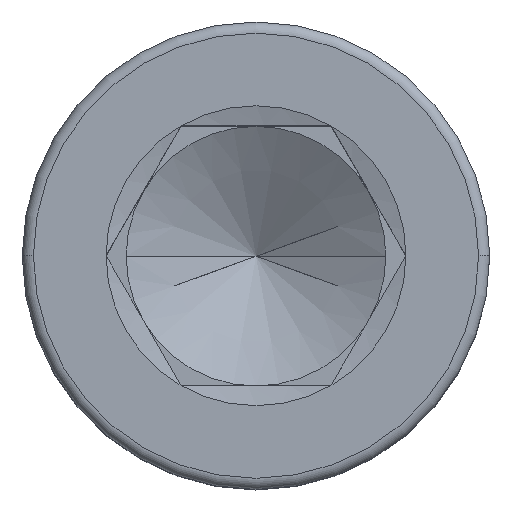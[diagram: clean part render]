
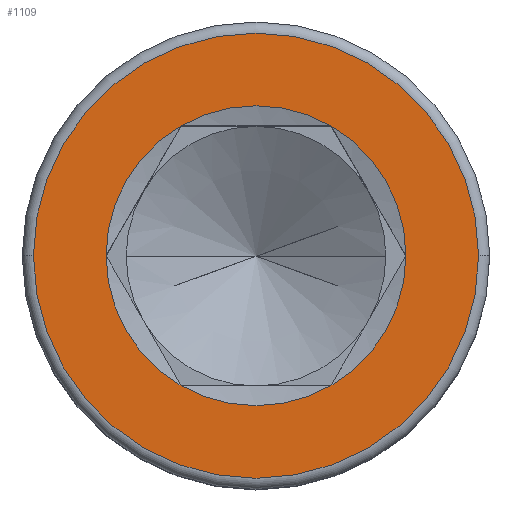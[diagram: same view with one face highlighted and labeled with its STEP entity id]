
A CAD part, top view. The second image highlights one B-rep face of the part: STEP entity #1109.
In plain terms, the highlighted planar face has unit normal (0, 0, 1).
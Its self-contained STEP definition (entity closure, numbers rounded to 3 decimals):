
#121 = CARTESIAN_POINT ( 'NONE',  ( 5.774, 0., 12. ) ) ;
#122 = CARTESIAN_POINT ( 'NONE',  ( 0., 0., 12. ) ) ;
#128 = VERTEX_POINT ( 'NONE', #981 ) ;
#139 = AXIS2_PLACEMENT_3D ( 'NONE', #656, #1078, #532 ) ;
#151 = CARTESIAN_POINT ( 'NONE',  ( 0., 0., 12. ) ) ;
#272 = CARTESIAN_POINT ( 'NONE',  ( 8.57, 0., 12. ) ) ;
#279 = FACE_BOUND ( 'NONE', #1314, .T. ) ;
#304 = AXIS2_PLACEMENT_3D ( 'NONE', #1161, #1542, #1017 ) ;
#334 = ORIENTED_EDGE ( 'NONE', *, *, #523, .F. ) ;
#356 = CARTESIAN_POINT ( 'NONE',  ( -2.887, 5., 12. ) ) ;
#371 = CIRCLE ( 'NONE', #1127, 5.774 ) ;
#444 = DIRECTION ( 'NONE',  ( 1., 0., 0. ) ) ;
#447 = ORIENTED_EDGE ( 'NONE', *, *, #1175, .F. ) ;
#454 = CIRCLE ( 'NONE', #1759, 5.774 ) ;
#464 = DIRECTION ( 'NONE',  ( 1., 0., 0. ) ) ;
#492 = DIRECTION ( 'NONE',  ( 1., 0., 0. ) ) ;
#494 = DIRECTION ( 'NONE',  ( 0., 0., 1. ) ) ;
#523 = EDGE_CURVE ( 'NONE', #789, #617, #918, .T. ) ;
#532 = DIRECTION ( 'NONE',  ( 1., 0., 0. ) ) ;
#536 = CIRCLE ( 'NONE', #139, 8.57 ) ;
#542 = ORIENTED_EDGE ( 'NONE', *, *, #1201, .F. ) ;
#551 = AXIS2_PLACEMENT_3D ( 'NONE', #601, #1459, #902 ) ;
#601 = CARTESIAN_POINT ( 'NONE',  ( 0., 0., 12. ) ) ;
#603 = VERTEX_POINT ( 'NONE', #813 ) ;
#615 = CARTESIAN_POINT ( 'NONE',  ( 0., 0., 12. ) ) ;
#617 = VERTEX_POINT ( 'NONE', #121 ) ;
#656 = CARTESIAN_POINT ( 'NONE',  ( 0., 0., 12. ) ) ;
#665 = DIRECTION ( 'NONE',  ( 0., 0., 1. ) ) ;
#684 = DIRECTION ( 'NONE',  ( 1., 0., 0. ) ) ;
#699 = EDGE_CURVE ( 'NONE', #1478, #789, #1418, .T. ) ;
#703 = CARTESIAN_POINT ( 'NONE',  ( 0., 0., 12. ) ) ;
#709 = AXIS2_PLACEMENT_3D ( 'NONE', #703, #1143, #444 ) ;
#789 = VERTEX_POINT ( 'NONE', #1076 ) ;
#813 = CARTESIAN_POINT ( 'NONE',  ( -5.774, 0., 12. ) ) ;
#831 = AXIS2_PLACEMENT_3D ( 'NONE', #1193, #494, #1058 ) ;
#878 = DIRECTION ( 'NONE',  ( 1., 0., 0. ) ) ;
#902 = DIRECTION ( 'NONE',  ( 1., 0., 0. ) ) ;
#906 = EDGE_CURVE ( 'NONE', #617, #1564, #1147, .T. ) ;
#918 = CIRCLE ( 'NONE', #831, 5.774 ) ;
#932 = ORIENTED_EDGE ( 'NONE', *, *, #699, .F. ) ;
#977 = FACE_OUTER_BOUND ( 'NONE', #1537, .T. ) ;
#981 = CARTESIAN_POINT ( 'NONE',  ( -8.57, 0., 12. ) ) ;
#994 = ORIENTED_EDGE ( 'NONE', *, *, #1099, .F. ) ;
#1017 = DIRECTION ( 'NONE',  ( 1., 0., 0. ) ) ;
#1031 = DIRECTION ( 'NONE',  ( 0., 0., 1. ) ) ;
#1058 = DIRECTION ( 'NONE',  ( 1., 0., 0. ) ) ;
#1076 = CARTESIAN_POINT ( 'NONE',  ( 2.887, -5., 12. ) ) ;
#1078 = DIRECTION ( 'NONE',  ( 0., 0., 1. ) ) ;
#1080 = VERTEX_POINT ( 'NONE', #356 ) ;
#1095 = AXIS2_PLACEMENT_3D ( 'NONE', #615, #1736, #492 ) ;
#1096 = DIRECTION ( 'NONE',  ( 0., 0., 1. ) ) ;
#1099 = EDGE_CURVE ( 'NONE', #1564, #1080, #1445, .T. ) ;
#1109 = ADVANCED_FACE ( 'NONE', ( #977, #279 ), #1261, .T. ) ;
#1127 = AXIS2_PLACEMENT_3D ( 'NONE', #1167, #1031, #878 ) ;
#1143 = DIRECTION ( 'NONE',  ( 0., 0., 1. ) ) ;
#1147 = CIRCLE ( 'NONE', #1553, 5.774 ) ;
#1149 = EDGE_CURVE ( 'NONE', #128, #1267, #536, .T. ) ;
#1161 = CARTESIAN_POINT ( 'NONE',  ( 0., 0., 12. ) ) ;
#1167 = CARTESIAN_POINT ( 'NONE',  ( 0., 0., 12. ) ) ;
#1175 = EDGE_CURVE ( 'NONE', #1080, #603, #454, .T. ) ;
#1193 = CARTESIAN_POINT ( 'NONE',  ( 0., 0., 12. ) ) ;
#1201 = EDGE_CURVE ( 'NONE', #603, #1478, #371, .T. ) ;
#1261 = PLANE ( 'NONE',  #709 ) ;
#1267 = VERTEX_POINT ( 'NONE', #272 ) ;
#1314 = EDGE_LOOP ( 'NONE', ( #1782, #334, #932, #542, #447, #994 ) ) ;
#1418 = CIRCLE ( 'NONE', #1095, 5.774 ) ;
#1445 = CIRCLE ( 'NONE', #304, 5.774 ) ;
#1459 = DIRECTION ( 'NONE',  ( 0., 0., 1. ) ) ;
#1478 = VERTEX_POINT ( 'NONE', #1701 ) ;
#1514 = CIRCLE ( 'NONE', #551, 8.57 ) ;
#1537 = EDGE_LOOP ( 'NONE', ( #1662, #1757 ) ) ;
#1542 = DIRECTION ( 'NONE',  ( 0., 0., 1. ) ) ;
#1549 = EDGE_CURVE ( 'NONE', #1267, #128, #1514, .T. ) ;
#1553 = AXIS2_PLACEMENT_3D ( 'NONE', #151, #1096, #684 ) ;
#1564 = VERTEX_POINT ( 'NONE', #1588 ) ;
#1588 = CARTESIAN_POINT ( 'NONE',  ( 2.887, 5., 12. ) ) ;
#1662 = ORIENTED_EDGE ( 'NONE', *, *, #1549, .T. ) ;
#1701 = CARTESIAN_POINT ( 'NONE',  ( -2.887, -5., 12. ) ) ;
#1736 = DIRECTION ( 'NONE',  ( 0., 0., 1. ) ) ;
#1757 = ORIENTED_EDGE ( 'NONE', *, *, #1149, .T. ) ;
#1759 = AXIS2_PLACEMENT_3D ( 'NONE', #122, #665, #464 ) ;
#1782 = ORIENTED_EDGE ( 'NONE', *, *, #906, .F. ) ;
